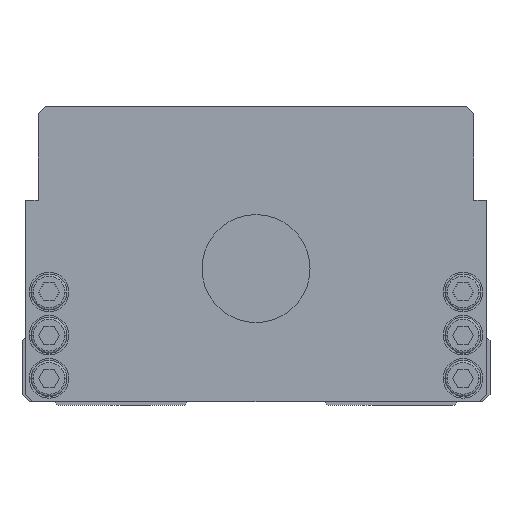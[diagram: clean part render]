
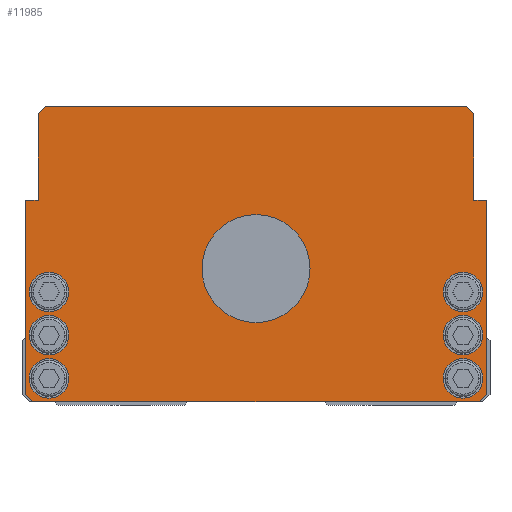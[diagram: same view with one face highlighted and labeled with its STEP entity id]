
A CAD part, front view. The second image highlights one B-rep face of the part: STEP entity #11985.
In plain terms, the highlighted planar face has unit normal (0, -1, 0).
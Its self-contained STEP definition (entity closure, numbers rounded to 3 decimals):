
#5509=EDGE_CURVE('',#5977,#9013,#16378,.T.);
#5795=VERTEX_POINT('',#16704);
#5879=VERTEX_POINT('',#16795);
#5937=VERTEX_POINT('',#16864);
#5977=VERTEX_POINT('',#16907);
#6237=VERTEX_POINT('',#17193);
#6743=VERTEX_POINT('',#17745);
#7311=VERTEX_POINT('',#18387);
#7555=VERTEX_POINT('',#18656);
#7773=VERTEX_POINT('',#18899);
#7789=EDGE_CURVE('',#6237,#15167,#18919,.T.);
#8309=VERTEX_POINT('',#19517);
#8673=EDGE_CURVE('',#9013,#15781,#19930,.T.);
#8917=EDGE_CURVE('',#6743,#10603,#20198,.T.);
#8983=EDGE_CURVE('',#12175,#9139,#20270,.T.);
#9013=VERTEX_POINT('',#20302);
#9139=VERTEX_POINT('',#20446);
#9211=EDGE_CURVE('',#10239,#12573,#20524,.T.);
#9475=VERTEX_POINT('',#20806);
#9925=VERTEX_POINT('',#21314);
#10145=EDGE_CURVE('',#5795,#5937,#21557,.T.);
#10161=EDGE_CURVE('',#9139,#12175,#21573,.T.);
#10239=VERTEX_POINT('',#21662);
#10303=VERTEX_POINT('',#21733);
#10603=VERTEX_POINT('',#22072);
#10965=EDGE_CURVE('',#14855,#5879,#22462,.T.);
#11105=VERTEX_POINT('',#22617);
#11383=VERTEX_POINT('',#22922);
#11489=EDGE_CURVE('',#10603,#7555,#23042,.T.);
#11879=EDGE_CURVE('',#10303,#9475,#23474,.T.);
#11985=ADVANCED_FACE('',(#23591,#23592,#23593,#23594,#23595,#23596,#23597,#23598),#23599,.T.);
#12053=EDGE_CURVE('',#5937,#6743,#23672,.T.);
#12175=VERTEX_POINT('',#23801);
#12263=VERTEX_POINT('',#23893);
#12521=EDGE_CURVE('',#8309,#11383,#24178,.T.);
#12573=VERTEX_POINT('',#24237);
#12733=EDGE_CURVE('',#15781,#11105,#24425,.T.);
#12817=EDGE_CURVE('',#15481,#5795,#24517,.T.);
#13085=EDGE_CURVE('',#15167,#5977,#24821,.T.);
#13357=EDGE_CURVE('',#7555,#6237,#25128,.T.);
#13423=EDGE_CURVE('',#7773,#9925,#25200,.T.);
#14079=EDGE_CURVE('',#9475,#10303,#25919,.T.);
#14143=EDGE_CURVE('',#12263,#7311,#25989,.T.);
#14855=VERTEX_POINT('',#26782);
#14869=EDGE_CURVE('',#12573,#10239,#26798,.T.);
#14953=EDGE_CURVE('',#5879,#14855,#26890,.T.);
#15167=VERTEX_POINT('',#27127);
#15309=EDGE_CURVE('',#9925,#7773,#27283,.T.);
#15481=VERTEX_POINT('',#27479);
#15673=EDGE_CURVE('',#11383,#8309,#27692,.T.);
#15781=VERTEX_POINT('',#27814);
#15857=EDGE_CURVE('',#7311,#12263,#27898,.T.);
#16085=EDGE_CURVE('',#11105,#15481,#28160,.T.);
#16378=LINE('',#28492,#28493);
#16704=CARTESIAN_POINT('',(-60.5,0.0,81.0));
#16795=CARTESIAN_POINT('',(63.0,0.0,19.5));
#16864=CARTESIAN_POINT('',(-58.5,0.0,83.0));
#16907=CARTESIAN_POINT('',(62.0,0.0,1.0));
#17193=CARTESIAN_POINT('',(64.0,0.0,57.0));
#17745=CARTESIAN_POINT('',(58.5,0.0,83.0));
#18387=CARTESIAN_POINT('',(-52.0,0.0,31.5));
#18656=CARTESIAN_POINT('',(60.5,0.0,57.0));
#18899=CARTESIAN_POINT('',(-63.0,0.0,7.5));
#18919=LINE('',#32015,#32016);
#19517=CARTESIAN_POINT('',(-52.0,0.0,19.5));
#19930=LINE('',#33395,#33396);
#20198=LINE('',#33752,#33753);
#20270=CIRCLE('',#33873,5.5);
#20302=CARTESIAN_POINT('',(-62.0,0.0,1.0));
#20446=CARTESIAN_POINT('',(63.0,0.0,7.5));
#20524=CIRCLE('',#34212,15.0);
#20806=CARTESIAN_POINT('',(52.0,0.0,31.5));
#21314=CARTESIAN_POINT('',(-52.0,0.0,7.5));
#21557=LINE('',#35637,#35638);
#21573=CIRCLE('',#35664,5.5);
#21662=CARTESIAN_POINT('',(15.0,0.0,38.0));
#21733=CARTESIAN_POINT('',(63.0,0.0,31.5));
#22072=CARTESIAN_POINT('',(60.5,0.0,81.0));
#22462=CIRCLE('',#36888,5.5);
#22617=CARTESIAN_POINT('',(-64.0,0.0,57.0));
#22922=CARTESIAN_POINT('',(-63.0,0.0,19.5));
#23042=LINE('',#37716,#37717);
#23474=CIRCLE('',#38317,5.5);
#23591=FACE_BOUND('',#38473,.T.);
#23592=FACE_BOUND('',#38474,.T.);
#23593=FACE_BOUND('',#38475,.T.);
#23594=FACE_BOUND('',#38476,.T.);
#23595=FACE_BOUND('',#38477,.T.);
#23596=FACE_BOUND('',#38478,.T.);
#23597=FACE_BOUND('',#38479,.T.);
#23598=FACE_OUTER_BOUND('',#38480,.T.);
#23599=PLANE('',#38481);
#23672=LINE('',#38576,#38577);
#23801=CARTESIAN_POINT('',(52.0,0.0,7.5));
#23893=CARTESIAN_POINT('',(-63.0,0.0,31.5));
#24178=CIRCLE('',#39274,5.5);
#24237=CARTESIAN_POINT('',(-15.0,0.0,38.0));
#24425=LINE('',#39602,#39603);
#24517=LINE('',#39719,#39720);
#24821=LINE('',#40164,#40165);
#25128=LINE('',#40587,#40588);
#25200=CIRCLE('',#40693,5.5);
#25919=CIRCLE('',#41663,5.5);
#25989=CIRCLE('',#41777,5.5);
#26782=CARTESIAN_POINT('',(52.0,0.0,19.5));
#26798=CIRCLE('',#42883,15.0);
#26890=CIRCLE('',#43009,5.5);
#27127=CARTESIAN_POINT('',(64.0,0.0,3.0));
#27283=CIRCLE('',#43575,5.5);
#27479=CARTESIAN_POINT('',(-60.5,0.0,57.0));
#27692=CIRCLE('',#44123,5.5);
#27814=CARTESIAN_POINT('',(-64.0,0.0,3.0));
#27898=CIRCLE('',#44397,5.5);
#28160=LINE('',#44765,#44766);
#28492=CARTESIAN_POINT('',(-62.0,0.0,1.0));
#28493=VECTOR('',#45177,1.0);
#32015=CARTESIAN_POINT('',(64.0,0.0,3.0));
#32016=VECTOR('',#48117,1.0);
#33395=CARTESIAN_POINT('',(-64.0,0.0,3.0));
#33396=VECTOR('',#49432,1.);
#33752=CARTESIAN_POINT('',(60.5,0.0,81.0));
#33753=VECTOR('',#49725,1.);
#33873=AXIS2_PLACEMENT_3D('',#49806,#49807,#49808);
#34212=AXIS2_PLACEMENT_3D('',#50105,#50106,#50107);
#35637=CARTESIAN_POINT('',(-58.5,0.0,83.0));
#35638=VECTOR('',#51238,1.);
#35664=AXIS2_PLACEMENT_3D('',#51246,#51247,#51248);
#36888=AXIS2_PLACEMENT_3D('',#52275,#52276,#52277);
#37716=CARTESIAN_POINT('',(60.5,0.0,57.0));
#37717=VECTOR('',#52923,1.0);
#38317=AXIS2_PLACEMENT_3D('',#53412,#53413,#53414);
#38473=EDGE_LOOP('',(#53540,#53541));
#38474=EDGE_LOOP('',(#53542,#53543));
#38475=EDGE_LOOP('',(#53544,#53545));
#38476=EDGE_LOOP('',(#53546,#53547));
#38477=EDGE_LOOP('',(#53548,#53549));
#38478=EDGE_LOOP('',(#53550,#53551));
#38479=EDGE_LOOP('',(#53552,#53553));
#38480=EDGE_LOOP('',(#53554,#53555,#53556,#53557,#53558,#53559,#53560,#53561,#53562,#53563,#53564,#53565));
#38481=AXIS2_PLACEMENT_3D('',#53566,#53567,#53568);
#38576=CARTESIAN_POINT('',(58.5,0.0,83.0));
#38577=VECTOR('',#53633,1.0);
#39274=AXIS2_PLACEMENT_3D('',#54099,#54100,#54101);
#39602=CARTESIAN_POINT('',(-64.0,0.0,57.0));
#39603=VECTOR('',#54483,1.0);
#39719=CARTESIAN_POINT('',(-60.5,0.0,81.0));
#39720=VECTOR('',#54577,1.0);
#40164=CARTESIAN_POINT('',(62.0,0.0,1.0));
#40165=VECTOR('',#54946,1.);
#40587=CARTESIAN_POINT('',(64.0,0.0,57.0));
#40588=VECTOR('',#55315,1.0);
#40693=AXIS2_PLACEMENT_3D('',#55392,#55393,#55394);
#41663=AXIS2_PLACEMENT_3D('',#56205,#56206,#56207);
#41777=AXIS2_PLACEMENT_3D('',#56280,#56281,#56282);
#42883=AXIS2_PLACEMENT_3D('',#57208,#57209,#57210);
#43009=AXIS2_PLACEMENT_3D('',#57305,#57306,#57307);
#43575=AXIS2_PLACEMENT_3D('',#57759,#57760,#57761);
#44123=AXIS2_PLACEMENT_3D('',#58300,#58301,#58302);
#44397=AXIS2_PLACEMENT_3D('',#58509,#58510,#58511);
#44765=CARTESIAN_POINT('',(-60.5,0.0,57.0));
#44766=VECTOR('',#58807,1.0);
#45177=DIRECTION('',(-1.0,0.0,-0.0));
#48117=DIRECTION('',(-0.0,0.0,-1.0));
#49432=DIRECTION('',(-0.707,0.0,0.707));
#49725=DIRECTION('',(0.707,0.0,-0.707));
#49806=CARTESIAN_POINT('',(57.5,0.0,7.5));
#49807=DIRECTION('',(-0.0,1.0,0.0));
#49808=DIRECTION('',(1.0,0.0,0.0));
#50105=CARTESIAN_POINT('',(0.0,0.0,38.0));
#50106=DIRECTION('',(-0.0,1.0,0.0));
#50107=DIRECTION('',(1.0,0.0,0.0));
#51238=DIRECTION('',(0.707,0.0,0.707));
#51246=CARTESIAN_POINT('',(57.5,0.0,7.5));
#51247=DIRECTION('',(-0.0,1.0,0.0));
#51248=DIRECTION('',(1.0,0.0,0.0));
#52275=CARTESIAN_POINT('',(57.5,0.0,19.5));
#52276=DIRECTION('',(-0.0,1.0,0.0));
#52277=DIRECTION('',(1.0,0.0,0.0));
#52923=DIRECTION('',(-0.0,0.0,-1.0));
#53412=CARTESIAN_POINT('',(57.5,0.0,31.5));
#53413=DIRECTION('',(-0.0,1.0,0.0));
#53414=DIRECTION('',(1.0,0.0,0.0));
#53540=ORIENTED_EDGE('',*,*,#9211,.T.);
#53541=ORIENTED_EDGE('',*,*,#14869,.T.);
#53542=ORIENTED_EDGE('',*,*,#11879,.T.);
#53543=ORIENTED_EDGE('',*,*,#14079,.T.);
#53544=ORIENTED_EDGE('',*,*,#14953,.T.);
#53545=ORIENTED_EDGE('',*,*,#10965,.T.);
#53546=ORIENTED_EDGE('',*,*,#10161,.T.);
#53547=ORIENTED_EDGE('',*,*,#8983,.T.);
#53548=ORIENTED_EDGE('',*,*,#15857,.T.);
#53549=ORIENTED_EDGE('',*,*,#14143,.T.);
#53550=ORIENTED_EDGE('',*,*,#12521,.T.);
#53551=ORIENTED_EDGE('',*,*,#15673,.T.);
#53552=ORIENTED_EDGE('',*,*,#15309,.T.);
#53553=ORIENTED_EDGE('',*,*,#13423,.T.);
#53554=ORIENTED_EDGE('',*,*,#8673,.F.);
#53555=ORIENTED_EDGE('',*,*,#5509,.F.);
#53556=ORIENTED_EDGE('',*,*,#13085,.F.);
#53557=ORIENTED_EDGE('',*,*,#7789,.F.);
#53558=ORIENTED_EDGE('',*,*,#13357,.F.);
#53559=ORIENTED_EDGE('',*,*,#11489,.F.);
#53560=ORIENTED_EDGE('',*,*,#8917,.F.);
#53561=ORIENTED_EDGE('',*,*,#12053,.F.);
#53562=ORIENTED_EDGE('',*,*,#10145,.F.);
#53563=ORIENTED_EDGE('',*,*,#12817,.F.);
#53564=ORIENTED_EDGE('',*,*,#16085,.F.);
#53565=ORIENTED_EDGE('',*,*,#12733,.F.);
#53566=CARTESIAN_POINT('',(0.,0.0,41.562));
#53567=DIRECTION('',(0.0,-1.0,0.0));
#53568=DIRECTION('',(1.0,0.0,0.0));
#53633=DIRECTION('',(1.0,0.0,0.0));
#54099=CARTESIAN_POINT('',(-57.5,0.0,19.5));
#54100=DIRECTION('',(-0.0,1.0,0.0));
#54101=DIRECTION('',(1.0,0.0,0.0));
#54483=DIRECTION('',(0.0,0.0,1.0));
#54577=DIRECTION('',(0.0,0.0,1.0));
#54946=DIRECTION('',(-0.707,0.0,-0.707));
#55315=DIRECTION('',(1.0,0.0,0.0));
#55392=CARTESIAN_POINT('',(-57.5,0.0,7.5));
#55393=DIRECTION('',(-0.0,1.0,0.0));
#55394=DIRECTION('',(1.0,0.0,0.0));
#56205=CARTESIAN_POINT('',(57.5,0.0,31.5));
#56206=DIRECTION('',(-0.0,1.0,0.0));
#56207=DIRECTION('',(1.0,0.0,0.0));
#56280=CARTESIAN_POINT('',(-57.5,0.0,31.5));
#56281=DIRECTION('',(-0.0,1.0,0.0));
#56282=DIRECTION('',(1.0,0.0,0.0));
#57208=CARTESIAN_POINT('',(0.0,0.0,38.0));
#57209=DIRECTION('',(-0.0,1.0,0.0));
#57210=DIRECTION('',(1.0,0.0,0.0));
#57305=CARTESIAN_POINT('',(57.5,0.0,19.5));
#57306=DIRECTION('',(-0.0,1.0,0.0));
#57307=DIRECTION('',(1.0,0.0,0.0));
#57759=CARTESIAN_POINT('',(-57.5,0.0,7.5));
#57760=DIRECTION('',(-0.0,1.0,0.0));
#57761=DIRECTION('',(1.0,0.0,0.0));
#58300=CARTESIAN_POINT('',(-57.5,0.0,19.5));
#58301=DIRECTION('',(-0.0,1.0,0.0));
#58302=DIRECTION('',(1.0,0.0,0.0));
#58509=CARTESIAN_POINT('',(-57.5,0.0,31.5));
#58510=DIRECTION('',(-0.0,1.0,0.0));
#58511=DIRECTION('',(1.0,0.0,0.0));
#58807=DIRECTION('',(1.0,0.0,0.0));
